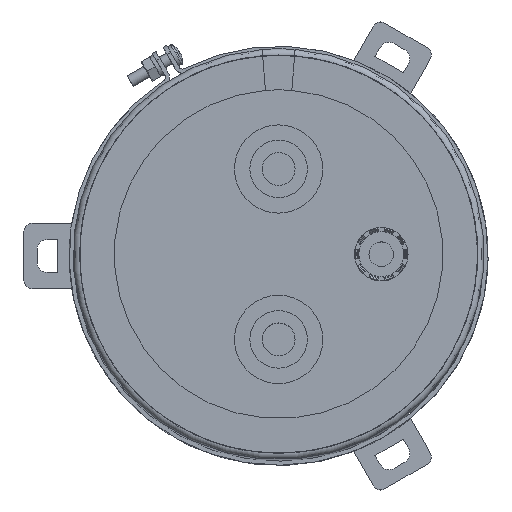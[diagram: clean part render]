
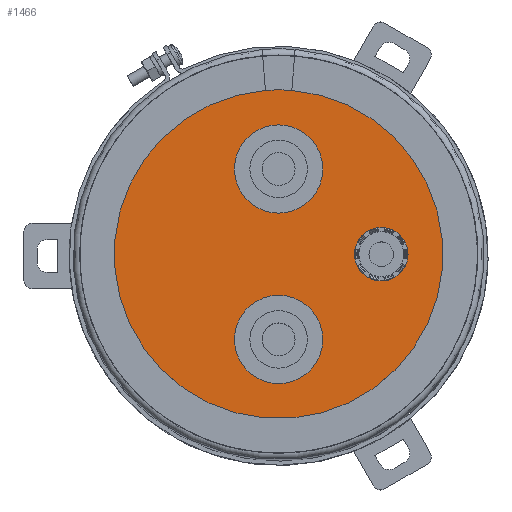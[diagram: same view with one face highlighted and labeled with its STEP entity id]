
A CAD part, top view. The second image highlights one B-rep face of the part: STEP entity #1466.
In plain terms, the highlighted planar face has unit normal (0, 0, 1).
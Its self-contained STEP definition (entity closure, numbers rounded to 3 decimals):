
#1265=PLANE('',#4807);
#1466=ADVANCED_FACE('',(#1622,#1623,#1624,#1625),#1265,.F.);
#1622=FACE_BOUND('',#1857,.T.);
#1623=FACE_BOUND('',#1858,.T.);
#1624=FACE_BOUND('',#1859,.T.);
#1625=FACE_BOUND('',#1860,.T.);
#1857=EDGE_LOOP('',(#2672));
#1858=EDGE_LOOP('',(#2673));
#1859=EDGE_LOOP('',(#2674));
#1860=EDGE_LOOP('',(#2675));
#2672=ORIENTED_EDGE('',*,*,#3952,.F.);
#2673=ORIENTED_EDGE('',*,*,#3953,.T.);
#2674=ORIENTED_EDGE('',*,*,#3954,.F.);
#2675=ORIENTED_EDGE('',*,*,#3955,.F.);
#3428=VERTEX_POINT('',#7702);
#3429=VERTEX_POINT('',#7704);
#3430=VERTEX_POINT('',#7706);
#3431=VERTEX_POINT('',#7708);
#3952=EDGE_CURVE('',#3428,#3428,#4375,.T.);
#3953=EDGE_CURVE('',#3429,#3429,#4376,.T.);
#3954=EDGE_CURVE('',#3430,#3430,#4377,.T.);
#3955=EDGE_CURVE('',#3431,#3431,#4378,.T.);
#4375=CIRCLE('',#4803,6.5);
#4376=CIRCLE('',#4804,10.75);
#4377=CIRCLE('',#4805,10.75);
#4378=CIRCLE('',#4806,48.5);
#4803=AXIS2_PLACEMENT_3D('',#7701,#5720,#5721);
#4804=AXIS2_PLACEMENT_3D('',#7703,#5722,#5723);
#4805=AXIS2_PLACEMENT_3D('',#7705,#5724,#5725);
#4806=AXIS2_PLACEMENT_3D('',#7707,#5726,#5727);
#4807=AXIS2_PLACEMENT_3D('',#7709,#5728,#5729);
#5720=DIRECTION('',(0.,0.,1.));
#5721=DIRECTION('',(0.,-1.,0.));
#5722=DIRECTION('',(0.,0.,-1.));
#5723=DIRECTION('',(0.,-1.,0.));
#5724=DIRECTION('',(0.,0.,1.));
#5725=DIRECTION('',(0.,-1.,0.));
#5726=DIRECTION('',(0.,0.,-1.));
#5727=DIRECTION('',(0.,1.,0.));
#5728=DIRECTION('',(0.,0.,-1.));
#5729=DIRECTION('',(0.,1.,0.));
#7701=CARTESIAN_POINT('',(25.,0.,249.4));
#7702=CARTESIAN_POINT('',(25.,-6.5,249.4));
#7703=CARTESIAN_POINT('',(0.,20.75,249.4));
#7704=CARTESIAN_POINT('',(0.,10.,249.4));
#7705=CARTESIAN_POINT('',(0.,-20.75,249.4));
#7706=CARTESIAN_POINT('',(0.,-31.5,249.4));
#7707=CARTESIAN_POINT('',(0.,0.,249.4));
#7708=CARTESIAN_POINT('',(0.,48.5,249.4));
#7709=CARTESIAN_POINT('',(0.,0.,249.4));
